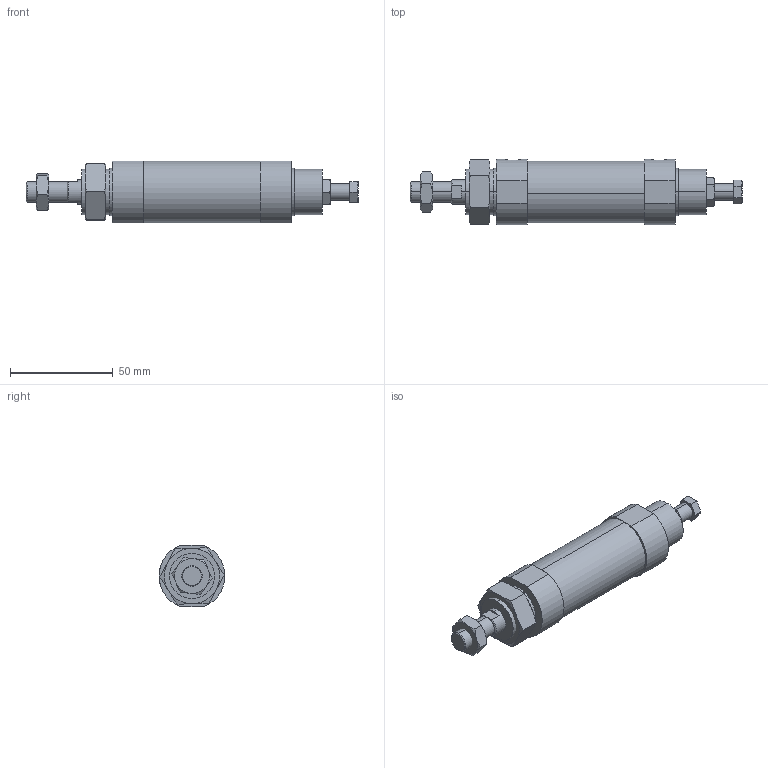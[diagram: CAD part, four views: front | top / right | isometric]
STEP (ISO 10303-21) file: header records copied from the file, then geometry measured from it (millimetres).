
FILE_DESCRIPTION (( 'STEP AP203' ), '1' );
FILE_NAME ('JGA2-25-25-N.STEP', '2016-04-20T05:06:46', ( '' ), ( '' ), 'SwSTEP 2.0', 'SolidWorks 2014', '' );
FILE_SCHEMA (( 'CONFIG_CONTROL_DESIGN' ));
Length unit declared in the file: millimetre
Products named in the file (6): JGA2-25A; 25-25; M22x1.5-10mm; JGLH2-25B; JGA2-25-25-N; M10x1.5-6mm
Assembly tree (5 placements, depth 2):
  JGA2-25-25-N
    JGLH2-25B
    25-25
    JGA2-25A
    M10x1.5-6mm
    M22x1.5-10mm
Bounding box: 161.5 x 32 x 30 mm (x, y, z)
Volume: 80717.3 mm3; surface area: 20660.5 mm2
Topology: 5 solids, 5 shells, 124 faces, 272 edges, 164 vertices
Faces by surface type: plane 52, torus 36, cylinder 28, cone 8
Entity records: 4460 total; most frequent: CARTESIAN_POINT 1208, DIRECTION 548, ORIENTED_EDGE 536, EDGE_CURVE 268, AXIS2_PLACEMENT_3D 228, VERTEX_POINT 164, EDGE_LOOP 138, ADVANCED_FACE 124
